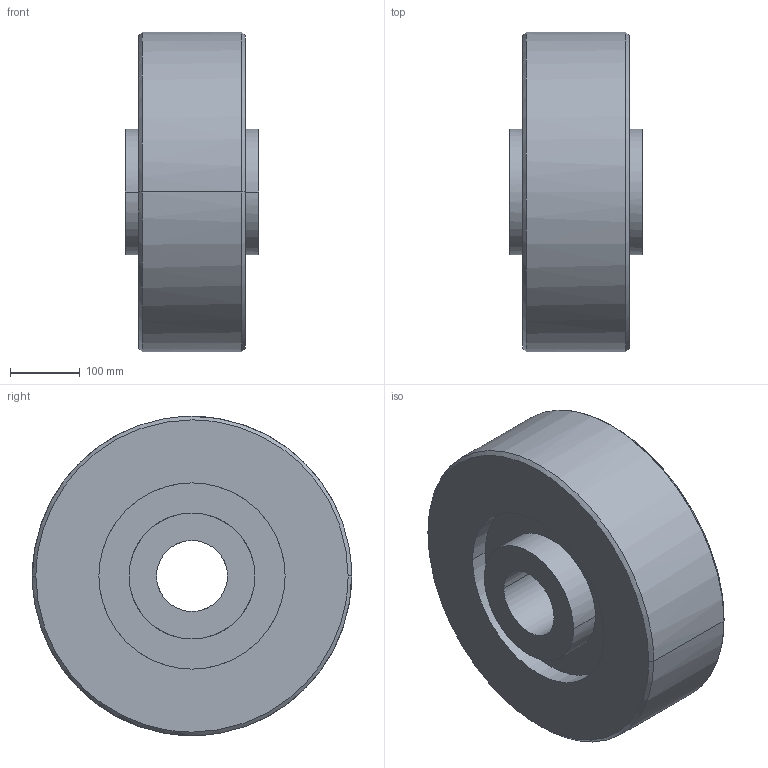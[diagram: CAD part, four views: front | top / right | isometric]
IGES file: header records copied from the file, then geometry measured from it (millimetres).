
Global section: native system: Kubotek KeyCreator; preprocessor: KCM Version 1.1.1442.0; author: KeyCreator User; organization: Self; date: 20170712.060320; units: inch
Bounding box: 190.5 x 457.2 x 457.2 mm (x, y, z)
Surface area: 676405 mm2 (no closed solid volume)
Topology: 0 solids, 0 shells, 22 faces, 144 edges, 144 vertices
Faces by surface type: bspline 22
